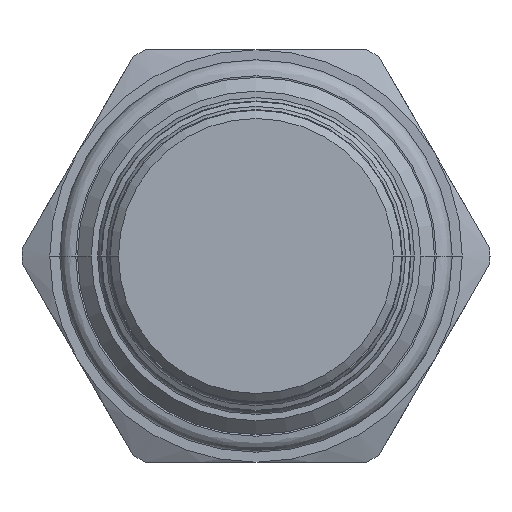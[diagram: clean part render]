
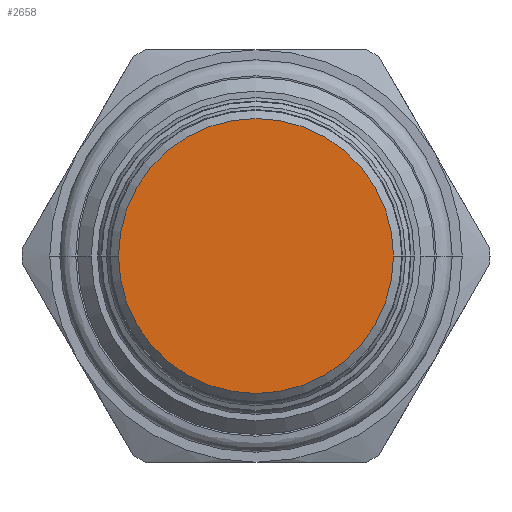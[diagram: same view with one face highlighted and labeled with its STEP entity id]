
A CAD part, front view. The second image highlights one B-rep face of the part: STEP entity #2658.
In plain terms, the highlighted planar face has unit normal (0, -1, 0).
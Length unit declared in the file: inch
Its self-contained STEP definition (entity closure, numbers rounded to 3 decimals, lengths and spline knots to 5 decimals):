
#1061=CARTESIAN_POINT('',(0.,-2.8707,0.));
#1062=DIRECTION('',(0.,1.,0.));
#1063=DIRECTION('',(1.,0.,0.));
#1064=AXIS2_PLACEMENT_3D('',#1061,#1062,#1063);
#1071=CARTESIAN_POINT('',(0.,-2.8707,0.));
#1072=DIRECTION('',(0.,1.,0.));
#1073=DIRECTION('',(-1.,0.,0.));
#1074=AXIS2_PLACEMENT_3D('',#1071,#1072,#1073);
#1189=CARTESIAN_POINT('',(0.5,-2.8707,0.));
#1190=CARTESIAN_POINT('',(-0.5,-2.8707,0.));
#1191=VERTEX_POINT('',#1189);
#1192=VERTEX_POINT('',#1190);
#2648=CARTESIAN_POINT('',(0.,-2.8707,0.));
#2649=DIRECTION('',(0.,1.,0.));
#2650=DIRECTION('',(1.,0.,0.));
#2651=AXIS2_PLACEMENT_3D('',#2648,#2649,#2650);
#2652=PLANE('',#2651);
#2653=ORIENTED_EDGE('',*,*,#2638,.T.);
#2655=ORIENTED_EDGE('',*,*,#2654,.T.);
#2656=EDGE_LOOP('',(#2653,#2655));
#2657=FACE_OUTER_BOUND('',#2656,.F.);
#2658=ADVANCED_FACE('',(#2657),#2652,.F.);
#1065=CIRCLE('',#1064,0.5);
#1075=CIRCLE('',#1074,0.5);
#2638=EDGE_CURVE('',#1191,#1192,#1065,.T.);
#2654=EDGE_CURVE('',#1192,#1191,#1075,.T.);
